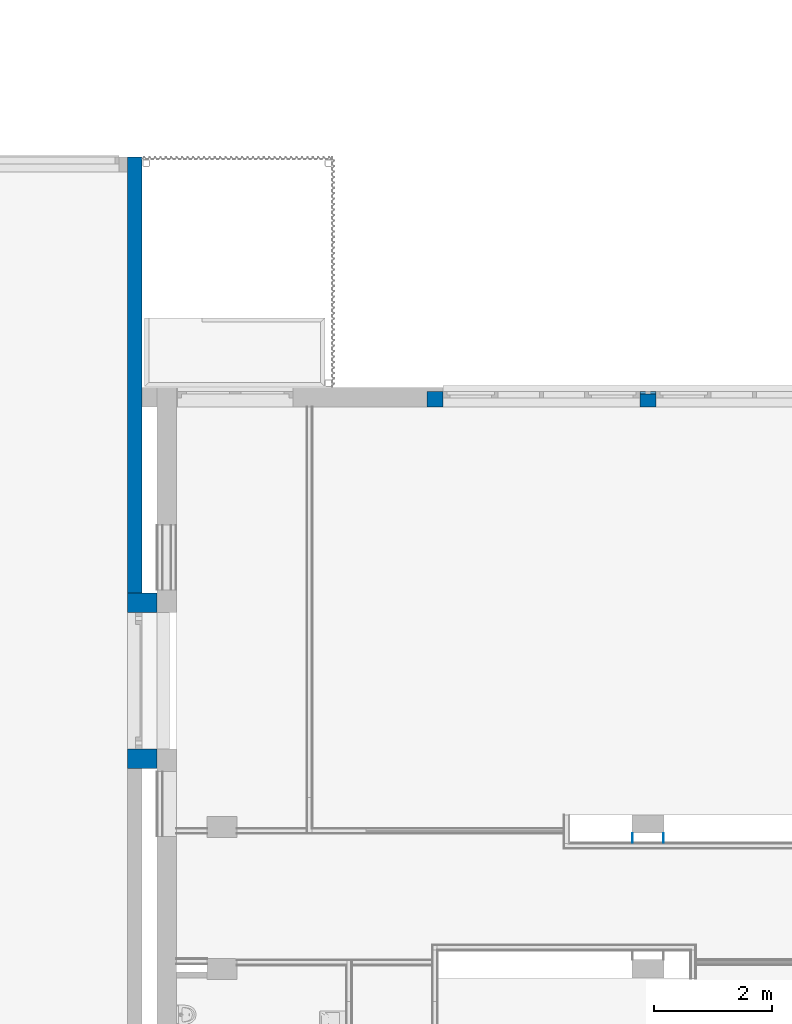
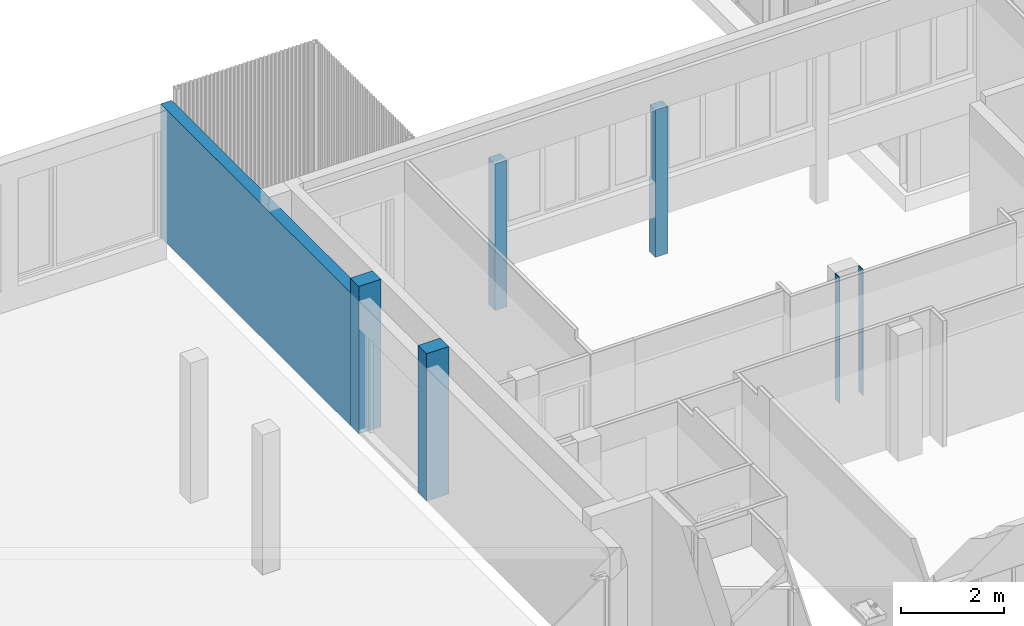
# One storey, part 38 of 99: 7 walls.
"""IFC2X3 building model written with IfcOpenShell, lengths in millimetres."""

from ifc_helpers import new_model, entity, si_unit, converted_unit, derived_unit, money_unit, direction, frame, origin_with_axes, place, context, subcontext, project, spatial, faceted_brep, material, type_object, element, save


model = new_model("IFC2X3")

# Units and contexts
model_context = context("Model", 3, precision=0.01, world=origin_with_axes(), true_north=direction((0.0, 1.0)))
body_context = subcontext(model_context, "Body", "Model", "MODEL_VIEW")
ifc_project = project(units=[si_unit("LENGTHUNIT", "METRE", prefix="MILLI"), si_unit("AREAUNIT", "SQUARE_METRE"), si_unit("VOLUMEUNIT", "CUBIC_METRE"), converted_unit("PLANEANGLEUNIT", "DEGREE", entity("IfcPlaneAngleMeasure", 0.0174532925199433), si_unit("PLANEANGLEUNIT", "RADIAN"), dimensions=[0, 0, 0, 0, 0, 0, 0]), money_unit("EUR"), converted_unit("TIMEUNIT", "Year", entity("IfcTimeMeasure", 31557600.0), si_unit("TIMEUNIT", "SECOND"), dimensions=[0, 0, 1, 0, 0, 0, 0]), si_unit("MASSUNIT", "GRAM", prefix="KILO"), si_unit("THERMODYNAMICTEMPERATUREUNIT", "DEGREE_CELSIUS"), si_unit("LUMINOUSINTENSITYUNIT", "LUMEN"), si_unit("ENERGYUNIT", "JOULE", prefix="MEGA"), derived_unit("THERMALCONDUCTANCEUNIT", [(si_unit("POWERUNIT", "WATT"), 1), (si_unit("LENGTHUNIT", "METRE"), -1), (si_unit("THERMODYNAMICTEMPERATUREUNIT", "KELVIN"), -1)]), derived_unit("SPECIFICHEATCAPACITYUNIT", [(si_unit("ENERGYUNIT", "JOULE"), 1), (si_unit("MASSUNIT", "GRAM", prefix="KILO"), -1), (si_unit("THERMODYNAMICTEMPERATUREUNIT", "KELVIN"), -1)]), derived_unit("MASSDENSITYUNIT", [(si_unit("MASSUNIT", "GRAM", prefix="KILO"), 1), (si_unit("VOLUMEUNIT", "CUBIC_METRE"), -1)])], contexts=[model_context])

# Site, building, storey
site_placement = place(None, origin_with_axes())
site = spatial("IfcSite", under=ifc_project, at=site_placement, Name="Site", CompositionType="ELEMENT")
building_placement = place(site_placement, origin_with_axes())
building = spatial("IfcBuilding", under=site, at=building_placement, Name="Naam gebouw", CompositionType="ELEMENT")
storey_placement = place(building_placement, frame((0.0, 0.0, 7650.0), z_axis=(0.0, 0.0, 1.0), x_axis=(1.0, 0.0, 0.0)))
storey = spatial("IfcBuildingStorey", under=building, at=storey_placement, Name="2e verdieping N", CompositionType="ELEMENT", Elevation=7650.0)

# Walls
ifc_material_1 = material(Name="ALG - CONSTRUCTIEF")
wall_type_1 = type_object("IfcWallType", Name="ALG - CONSTRUCTIEF 330", PredefinedType="NOTDEFINED")
wall_1_placement = place(storey_placement, frame((-1599.999999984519, 14215.57073452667, -99.99999999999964), z_axis=(0.0, 0.0, 1.0), x_axis=(0.9999999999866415, 5.168867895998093e-06, 0.0)))
element("IfcWall", 1, at=wall_1_placement, inside=storey, type_object=wall_type_1, material=ifc_material_1, Name="_Wand-x", context=body_context, shape_type="Brep", body=[
    faceted_brep([(499.955477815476, -0.002584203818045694, 3500.0), (499.955477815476, -0.002584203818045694, 0.0), (0.0, 0.0, 0.0), (0.0, 0.0, 3160.0), (0.0, 0.0, 3500.0), (499.9554778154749, -330.0025842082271, 3500.0), (499.9554778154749, -330.0025842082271, 0.0), (-0.001705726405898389, -329.9999999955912, 0.0), (-0.001705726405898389, -329.9999999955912, 3160.0), (-0.001705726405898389, -329.9999999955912, 3500.0)], [[[0, 1, 2, 3, 4]], [[5, 6, 1, 0]], [[2, 1, 6, 7]], [[3, 2, 7, 8, 9, 4]], [[9, 5, 0, 4]], [[7, 6, 5, 9, 8]]]),
])
wall_2_placement = place(storey_placement, frame((-1600.010158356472, 16515.57931436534, -99.99999999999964), z_axis=(0.0, 0.0, 1.0), x_axis=(0.9999999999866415, -5.168867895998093e-06, 0.0)))
element("IfcWall", 2, at=wall_2_placement, inside=storey, type_object=wall_type_1, material=ifc_material_1, Name="_Wand-x", context=body_context, shape_type="Brep", body=[
    faceted_brep([(499.9503363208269, 329.9999999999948, 3500.0), (0.0, 329.9999999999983, 3500.0), (0.0, 0.0, 3500.0), (499.9537477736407, 0.0, 3500.0), (499.9503363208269, 329.9999999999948, 0.0), (0.0, 329.9999999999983, 0.0), (0.0, 0.0, 0.0), (499.9537477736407, 0.0, 0.0)], [[[0, 1, 2, 3]], [[4, 5, 1, 0]], [[2, 1, 5, 6]], [[3, 2, 6, 7]], [[3, 7, 4, 0]], [[7, 6, 5, 4]]]),
])
wall_type_2 = type_object("IfcWallType", Name="ALG - CONSTRUCTIEF 250", PredefinedType="NOTDEFINED")
wall_3_placement = place(storey_placement, frame((-1600.000000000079, 23965.57502437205, -99.99999999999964), z_axis=(0.0, 0.0, 1.0), x_axis=(0.0, -1.0, 0.0)))
element("IfcWall", 3, at=wall_3_placement, inside=storey, type_object=wall_type_2, material=ifc_material_1, Name="_Wand-x", context=body_context, shape_type="Brep", body=[
    faceted_brep([(-250.0, 3.992361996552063e-10, 3160.0), (7119.995710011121, -0.008452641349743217, 3160.0), (7119.997002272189, 250.0000000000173, 3160.0), (-249.9999999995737, 250.0000000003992, 3160.0), (-250.0, 3.990141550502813e-10, 0.0), (7119.995710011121, -0.008452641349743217, 0.0), (7119.997002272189, 250.0000000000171, 0.0), (-249.9999999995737, 250.000000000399, 0.0)], [[[0, 1, 2, 3]], [[4, 5, 1, 0]], [[5, 6, 2, 1]], [[3, 2, 6, 7]], [[4, 0, 3, 7]], [[7, 6, 5, 4]]]),
])
ifc_material_2 = material(Name="Gipsplaat")
wall_type_3 = type_object("IfcWallType", Name="Metalstud 100 enkel 100", PredefinedType="NOTDEFINED")
wall_4_placement = place(storey_placement, frame((7469.999999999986, 12625.85635739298, 0.0), z_axis=(0.0, 0.0, 1.0), x_axis=(0.0, 1.0, 0.0)))
element("IfcWall", 4, at=wall_4_placement, inside=storey, type_object=wall_type_3, material=ifc_material_2, Name="_Wand-x", context=body_context, shape_type="Brep", body=[
    faceted_brep([(164.9999999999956, 0.0, 0.0), (164.9999999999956, 12.50000000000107, 0.0), (164.9999999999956, 12.50000000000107, 2989.999999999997), (164.9999999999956, 0.0, 2989.999999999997), (0.0, 0.0, 0.0), (0.0, 12.50000000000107, 0.0), (0.0, 12.50000000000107, 2989.999999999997), (0.0, 0.0, 2989.999999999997)], [[[0, 1, 2, 3]], [[0, 4, 5, 1]], [[1, 5, 6, 2]], [[2, 6, 7, 3]], [[4, 0, 3, 7]], [[5, 4, 7, 6]]]),
])
wall_5_placement = place(storey_placement, frame((6929.999999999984, 12625.85635739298, 0.0), z_axis=(0.0, 0.0, 1.0), x_axis=(0.0, 1.0, 0.0)))
element("IfcWall", 5, at=wall_5_placement, inside=storey, type_object=wall_type_3, material=ifc_material_2, Name="_Wand-x", context=body_context, shape_type="Brep", body=[
    faceted_brep([(164.9999999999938, -12.50000000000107, 0.0), (164.9999999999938, 0.0, 0.0), (164.9999999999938, 0.0, 2989.999999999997), (164.9999999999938, -12.50000000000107, 2989.999999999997), (0.0, -12.50000000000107, 0.0), (0.0, 0.0, 0.0), (0.0, 0.0, 2989.999999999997), (0.0, -12.50000000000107, 2989.999999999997)], [[[0, 1, 2, 3]], [[0, 4, 5, 1]], [[1, 5, 6, 2]], [[2, 6, 7, 3]], [[4, 0, 3, 7]], [[5, 4, 7, 6]]]),
])
ifc_material_3 = material(Name="ALG - GEVEL")
wall_type_4 = type_object("IfcWallType", Name="ALG - GEVEL 260", PredefinedType="NOTDEFINED")
wall_6_placement = place(storey_placement, frame((7062.498656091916, 20255.85731192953, -1057.31604435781), z_axis=(0.0, 0.0, 1.0), x_axis=(1.0, 0.0, 0.0)))
element("IfcWall", 6, at=wall_6_placement, inside=storey, type_object=wall_type_4, material=ifc_material_3, Name="_Wand-x", context=body_context, shape_type="Brep", body=[
    faceted_brep([(0.001343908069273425, 0.0, 1777.316044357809), (275.0013439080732, 0.0, 1777.316044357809), (275.0000000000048, 0.0, 0.0), (0.0, 0.0, 0.0), (0.001343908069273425, -43.99999999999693, 1777.316044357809), (275.0013439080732, -43.99999999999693, 1777.316044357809), (275.0013439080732, -43.99999999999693, 3497.316044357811), (275.0000000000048, -260.0000000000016, 3497.316044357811), (275.0000000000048, -260.0000000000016, 1057.31604435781), (275.0000000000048, -259.9448868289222, 1057.31604435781), (275.0000000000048, -259.9448868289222, 757.3160443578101), (275.0000000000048, -260.0000000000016, 757.3160443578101), (275.0000000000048, -260.0000000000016, 0.0), (0.0, -260.0000000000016, 0.0), (0.001343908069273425, -43.99999999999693, 3497.316044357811), (0.0, -260.0000000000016, 757.3160443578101), (0.0, -259.9448868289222, 757.3160443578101), (0.0, -259.9448868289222, 1057.31604435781), (0.0, -260.0000000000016, 1057.31604435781), (0.0, -260.0000000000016, 3497.316044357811)], [[[0, 1, 2, 3]], [[0, 4, 5, 1]], [[1, 5, 6, 7, 8, 9, 10, 11, 12, 2]], [[2, 12, 13, 3]], [[14, 4, 0, 3, 13, 15, 16, 17, 18, 19]], [[4, 14, 6, 5]], [[6, 14, 19, 7]], [[8, 7, 19, 18]], [[8, 18, 17, 9]], [[9, 17, 16, 10]], [[10, 16, 15, 11]], [[15, 13, 12, 11]]]),
])
wall_type_5 = type_object("IfcWallType", Name="ALG - CONSTRUCTIEF 260", PredefinedType="NOTDEFINED")
wall_7_placement = place(storey_placement, frame((3462.498656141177, 20255.85731192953, -1057.31604435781), z_axis=(0.0, 0.0, 1.0), x_axis=(1.0, 0.0, 0.0)))
element("IfcWall", 7, at=wall_7_placement, inside=storey, type_object=wall_type_5, material=ifc_material_1, Name="_Wand-x", context=body_context, shape_type="Brep", body=[
    faceted_brep([(274.9999999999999, -260.0000000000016, 1057.31604435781), (274.9999999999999, -259.9448868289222, 1057.31604435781), (274.9999999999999, -259.9448868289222, 757.3160443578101), (274.9999999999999, -260.0000000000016, 757.3160443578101), (274.9999999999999, -260.0000000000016, 0.0), (274.9999999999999, 0.0, 0.0), (274.9999999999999, 0.0, 3477.31604435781), (274.9999999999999, -260.0000000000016, 3477.31604435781), (0.0, -260.0000000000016, 1057.31604435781), (0.0, -259.9448868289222, 1057.31604435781), (0.0, -259.9448868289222, 757.3160443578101), (0.0, -260.0000000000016, 757.3160443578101), (0.0, -260.0000000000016, 0.0), (0.0, 0.0, 0.0), (0.0, 0.0, 3477.31604435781), (0.0, -260.0000000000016, 3477.31604435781)], [[[0, 1, 2, 3, 4, 5, 6, 7]], [[8, 9, 1, 0]], [[9, 10, 2, 1]], [[10, 11, 3, 2]], [[12, 4, 3, 11]], [[4, 12, 13, 5]], [[5, 13, 14, 6]], [[6, 14, 15, 7]], [[7, 15, 8, 0]], [[11, 10, 9, 8, 15, 14, 13, 12]]]),
])

save(model, "model.ifc")
